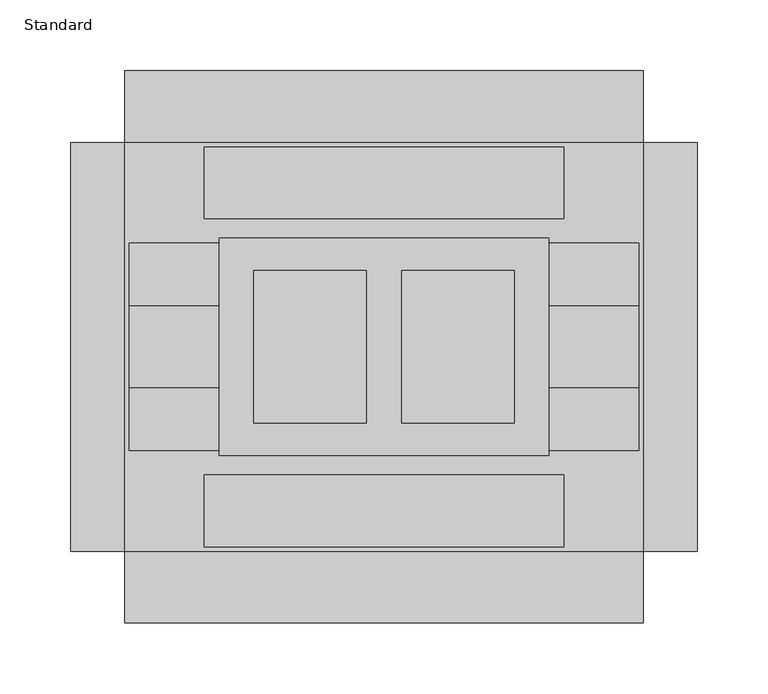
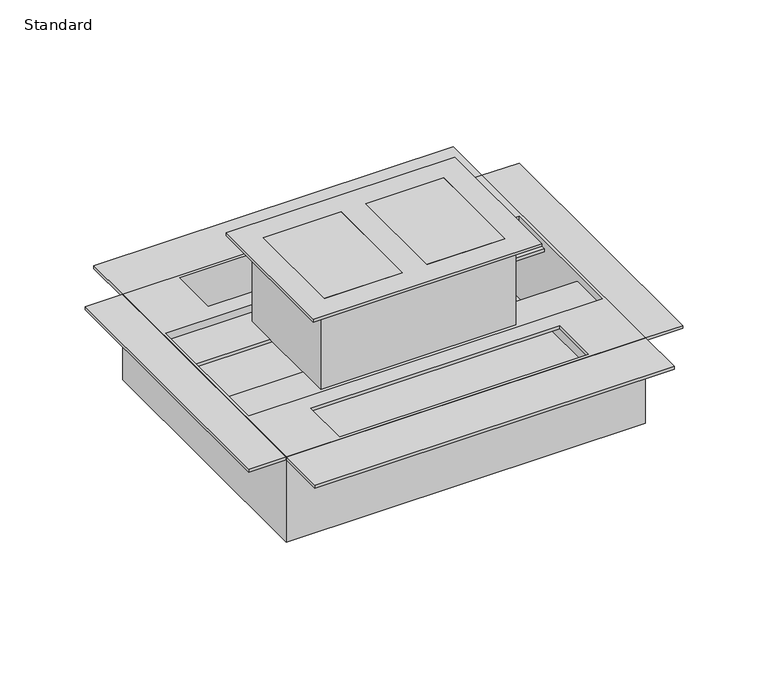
"""IFC4 building model written with IfcOpenShell, lengths in millimetres: proxy geometry, Floor_Box-OmniBox_Series-Wiremold-880_Steel-2_Gang-Fire_Classified : Standard."""

from ifc_helpers import new_model, si_unit, frame, origin, origin_with_axes, place, context, project, spatial, polyline, circle_curve, outline, extrude, faceted_brep, source, transform, mapped, element, save
from ifc_brep_helpers import plane_surface, cylinder_surface, advanced_brep


def standard_68cc898d(model_context):
    return source(origin(), model_context, "Body", "SolidModel", [
        extrude(outline(polyline([(12.7127, 53.975), (92.0877, 53.975), (92.0877, -53.975), (12.7127, -53.975), (12.7127, 53.975)])), frame((0.0, 0.0, -9.525), z_axis=(0.0, 0.0, 1.0), x_axis=(1.0, 0.0, 0.0)), (0.0, 0.0, 1.0), 12.7),
        extrude(outline(polyline([(-92.0877, 53.975), (-12.7127, 53.975), (-12.7127, -53.975), (-92.0877, -53.975), (-92.0877, 53.975)])), frame((0.0, 0.0, -9.525), z_axis=(0.0, 0.0, 1.0), x_axis=(1.0, 0.0, 0.0)), (0.0, 0.0, 1.0), 12.7),
        extrude(outline(polyline([(116.6876, 77.0001), (116.6876, -77.0001), (-116.6876, -77.0001), (-116.6876, 77.0001), (116.6876, 77.0001)]), holes=[polyline([(92.0877, 53.975), (12.7127, 53.975), (12.7127, -53.975), (92.0877, -53.975), (92.0877, 53.975)]), polyline([(-12.7127, 53.975), (-92.0877, 53.975), (-92.0877, -53.975), (-12.7127, -53.975), (-12.7127, 53.975)])]), origin_with_axes(), (0.0, 0.0, 1.0), 3.175),
        faceted_brep([(-183.515, 144.653, -81.026), (-183.515, 144.653, -172.974), (-183.515, -144.653, -172.974), (-183.515, -144.653, -81.026), (183.515, -144.653, -81.026), (183.515, -144.653, -172.974), (183.515, 144.653, -172.974), (183.515, 144.653, -81.026), (-180.34, -73.533, -81.026), (180.34, -73.533, -81.026), (180.34, -73.533, -88.9), (-180.34, -73.533, -88.9), (180.34, -29.083, -88.9), (-180.34, -29.083, -88.9), (180.34, -29.083, -92.075), (-180.34, -29.083, -92.075), (180.34, -76.708, -92.075), (-180.34, -76.708, -92.075), (180.34, -76.708, -84.201), (-180.34, -76.708, -84.201), (-127.0, -90.678, -84.201), (-127.0, -141.478, -84.201), (-180.34, -141.478, -84.201), (180.34, -141.478, -84.201), (127.0, -141.478, -84.201), (127.0, -90.678, -84.201), (-127.0, 90.678, -84.201), (127.0, 90.678, -84.201), (127.0, 141.478, -84.201), (180.34, 141.478, -84.201), (180.34, 76.708, -84.201), (-180.34, 76.708, -84.201), (-180.34, 141.478, -84.201), (-127.0, 141.478, -84.201), (180.34, 76.708, -92.075), (-180.34, 76.708, -92.075), (180.34, 29.083, -92.075), (-180.34, 29.083, -92.075), (180.34, 29.083, -88.9), (-180.34, 29.083, -88.9), (180.34, 73.533, -88.9), (-180.34, 73.533, -88.9), (180.34, 73.533, -81.026), (-180.34, 73.533, -81.026), (127.0, -90.678, -81.026), (127.0, -141.478, -81.026), (-127.0, -141.478, -81.026), (-127.0, -90.678, -81.026), (-127.0, 141.478, -81.026), (127.0, 141.478, -81.026), (127.0, 90.678, -81.026), (-127.0, 90.678, -81.026), (-180.34, 141.478, -169.799), (-180.34, -141.478, -169.799), (180.34, -141.478, -169.799), (180.34, 141.478, -169.799)], [[[0, 1, 2, 3]], [[4, 5, 6, 7]], [[8, 9, 10, 11]], [[11, 10, 12, 13]], [[13, 12, 14, 15]], [[15, 14, 16, 17]], [[17, 16, 18, 19]], [[20, 21, 22, 19, 18, 23, 24, 25]], [[26, 27, 28, 29, 30, 31, 32, 33]], [[31, 30, 34, 35]], [[35, 34, 36, 37]], [[37, 36, 38, 39]], [[39, 38, 40, 41]], [[41, 40, 42, 43]], [[4, 7, 0, 3], [44, 45, 46, 47], [48, 49, 50, 51], [8, 43, 42, 9]], [[26, 51, 50, 27]], [[27, 50, 49, 28]], [[51, 26, 33, 48]], [[20, 47, 46, 21]], [[44, 25, 24, 45]], [[47, 20, 25, 44]], [[1, 6, 5, 2]], [[4, 3, 2, 5]], [[0, 7, 6, 1]], [[52, 53, 54, 55]], [[53, 52, 32, 31, 35, 37, 39, 41, 43, 8, 11, 13, 15, 17, 19, 22]], [[54, 53, 22, 21, 46, 45, 24, 23]], [[55, 54, 23, 18, 16, 14, 12, 10, 9, 42, 40, 38, 36, 34, 30, 29]], [[52, 55, 29, 28, 49, 48, 33, 32]]]),
        extrude(outline(polyline([(-183.515, -144.653), (183.515, -144.653), (183.515, -195.453), (-183.515, -195.453), (-183.515, -144.653)])), frame((0.0, 0.0, -84.201), z_axis=(0.0, 0.0, 1.0), x_axis=(1.0, 0.0, 0.0)), (0.0, 0.0, 1.0), 3.175),
        extrude(outline(polyline([(-183.515, 195.453), (183.515, 195.453), (183.515, 144.653), (-183.515, 144.653), (-183.515, 195.453)])), frame((0.0, 0.0, -84.201), z_axis=(0.0, 0.0, 1.0), x_axis=(1.0, 0.0, 0.0)), (0.0, 0.0, 1.0), 3.175),
        extrude(outline(polyline([(-221.615, 144.653), (-183.515, 144.653), (-183.515, -144.653), (-221.615, -144.653), (-221.615, 144.653)])), frame((0.0, 0.0, -84.201), z_axis=(0.0, 0.0, 1.0), x_axis=(1.0, 0.0, 0.0)), (0.0, 0.0, 1.0), 3.175),
        extrude(outline(polyline([(183.515, 144.653), (221.615, 144.653), (221.615, -144.653), (183.515, -144.653), (183.515, 144.653)])), frame((0.0, 0.0, -84.201), z_axis=(0.0, 0.0, 1.0), x_axis=(1.0, 0.0, 0.0)), (0.0, 0.0, 1.0), 3.175),
        advanced_brep(
        [(-7.62, 0.0, -228.6), (-96.52, 0.0, -228.6), (-52.07, 0.0, -228.6), (-7.62, 0.0, -172.974), (-96.52, 0.0, -172.974), (-52.07, 0.0, -172.974)],
        [
            (0, 1, circle_curve(frame((-52.07, 0.0, -228.6), z_axis=(0.0, 0.0, -1.0), x_axis=(-1.0, 0.0, 0.0)), 44.45)),
            (1, 2),
            (2, 0),
            (1, 0, circle_curve(frame((-52.07, 0.0, -228.6), z_axis=(0.0, 0.0, -1.0), x_axis=(-1.0, 0.0, 0.0)), 44.45)),
            (3, 4, circle_curve(frame((-52.07, 0.0, -172.974), z_axis=(0.0, 0.0, -1.0), x_axis=(-1.0, 0.0, 0.0)), 44.45)),
            (4, 1),
            (0, 3),
            (4, 3, circle_curve(frame((-52.07, 0.0, -172.974), z_axis=(0.0, 0.0, -1.0), x_axis=(-1.0, 0.0, 0.0)), 44.45)),
            (5, 4),
            (3, 5),
        ],
        [
            plane_surface(frame((-52.07, 0.0, -228.6), z_axis=(0.0, 0.0, -1.0), x_axis=(-1.0, 0.0, 0.0))),
            cylinder_surface(frame((-52.07, 0.0, -99.2886), z_axis=(0.0, 0.0, 1.0), x_axis=(-1.0, 0.0, 0.0)), 44.45),
            plane_surface(frame((-52.07, 0.0, -172.974), z_axis=(0.0, 0.0, 1.0), x_axis=(-1.0, 0.0, 0.0))),
        ],
        [
            (0, [[1, 2, 3]]),
            (0, [[4, -3, -2]]),
            (1, [[5, 6, -1, 7]]),
            (1, [[8, -7, -4, -6]]),
            (2, [[9, -5, 10]]),
            (2, [[-10, -8, -9]]),
        ],
    ),
        advanced_brep(
        [(52.07, 0.0, -228.6), (88.646, 0.0, -228.6), (15.494, 0.0, -228.6), (88.646, 0.0, -172.974), (15.494, 0.0, -172.974), (52.07, 0.0, -172.974)],
        [
            (0, 1),
            (1, 2, circle_curve(frame((52.07, 0.0, -228.6), z_axis=(0.0, 0.0, -1.0), x_axis=(1.0, 0.0, 0.0)), 36.576)),
            (2, 0),
            (2, 1, circle_curve(frame((52.07, 0.0, -228.6), z_axis=(0.0, 0.0, -1.0), x_axis=(1.0, 0.0, 0.0)), 36.576)),
            (1, 3),
            (3, 4, circle_curve(frame((52.07, 0.0, -172.974), z_axis=(0.0, 0.0, -1.0), x_axis=(1.0, 0.0, 0.0)), 36.576)),
            (4, 2),
            (4, 3, circle_curve(frame((52.07, 0.0, -172.974), z_axis=(0.0, 0.0, -1.0), x_axis=(1.0, 0.0, 0.0)), 36.576)),
            (3, 5),
            (5, 4),
        ],
        [
            plane_surface(frame((52.07, 0.0, -228.6), z_axis=(0.0, 0.0, -1.0), x_axis=(1.0, 0.0, 0.0))),
            cylinder_surface(frame((52.07, 0.0, -79.4512), z_axis=(0.0, 0.0, -1.0), x_axis=(1.0, 0.0, 0.0)), 36.576),
            plane_surface(frame((52.07, 0.0, -172.974), z_axis=(0.0, 0.0, 1.0), x_axis=(1.0, 0.0, 0.0))),
        ],
        [
            (0, [[1, 2, 3]]),
            (0, [[-3, 4, -1]]),
            (1, [[-2, 5, 6, 7]]),
            (1, [[-4, -7, 8, -5]]),
            (2, [[-6, 9, 10]]),
            (2, [[-8, -10, -9]]),
        ],
    ),
        extrude(outline(polyline([(-99.568, 60.579), (99.568, 60.579), (99.568, -60.579), (-99.568, -60.579), (-99.568, 60.579)])), frame((0.0, 0.0, -88.9), z_axis=(0.0, 0.0, 1.0), x_axis=(1.0, 0.0, 0.0)), (0.0, 0.0, 1.0), 88.9),
    ])


if __name__ == "__main__":
    model = new_model("IFC4")
    model_context = context("Model", 3, world=origin())
    ifc_project = project(units=[si_unit("LENGTHUNIT", "METRE", prefix="MILLI")], contexts=[model_context])
    site = spatial("IfcSite", under=ifc_project)
    building = spatial("IfcBuilding", under=site)
    placement = place(None, origin())
    standard_shape = standard_68cc898d(model_context)
    element("IfcBuildingElementProxy", 1, Name="Floor_Box-OmniBox_Series-Wiremold-880_Steel-2_Gang-Fire_Classified : Standard", ObjectType="Floor_Box-OmniBox_Series-Wiremold-880_Steel-2_Gang-Fire_Classified : Standard", at=placement, inside=building, context=model_context, shape_type="MappedRepresentation", body=[
        mapped(standard_shape, transform((0.0, 0.0, 0.0), x_axis=(1.0, 0.0, 0.0), y_axis=(0.0, 1.0, 0.0), z_axis=(0.0, 0.0, 1.0))),
    ])
    save(model, "model.ifc")
